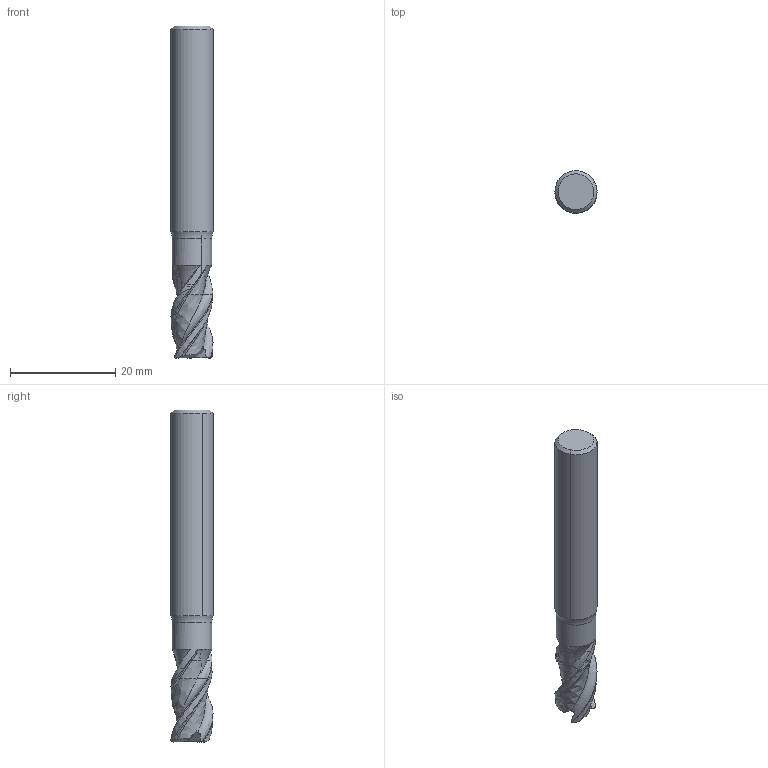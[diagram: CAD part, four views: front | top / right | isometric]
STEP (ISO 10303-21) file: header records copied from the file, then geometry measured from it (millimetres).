
FILE_DESCRIPTION(('CATIA V5 STEP','CAx-IF Rec.Pracs.--- Model Styling and Organization---1.2---2011-12-15'),'2;1');
FILE_NAME('I:\isr\design\admin8\users\weaam_s\5622781D.stp','2017-05-29T05:09:06+00:00',('none'),('none'),'CATIA Version 5 Release 21 SP 5 (IN-10)','CATIA V5 STEP AP214','none');
FILE_SCHEMA(('AUTOMOTIVE_DESIGN { 1 0 10303 214 1 1 1 1 }'));
Length unit declared in the file: millimetre
Products named in the file (1): ECA-H3 08-12/24C08CF-R02 
Bounding box: 8 x 8 x 63 mm (x, y, z)
Volume: 2779.6 mm3; surface area: 1695.5 mm2
Topology: 2 solids, 2 shells, 87 faces, 245 edges, 162 vertices
Faces by surface type: bspline 48, plane 15, torus 12, cone 8, cylinder 4
Entity records: 4156 total; most frequent: CARTESIAN_POINT 2519, ORIENTED_EDGE 478, EDGE_CURVE 239, B_SPLINE_CURVE_WITH_KNOTS 156, VERTEX_POINT 156, DIRECTION 109, ADVANCED_FACE 87, EDGE_LOOP 87
